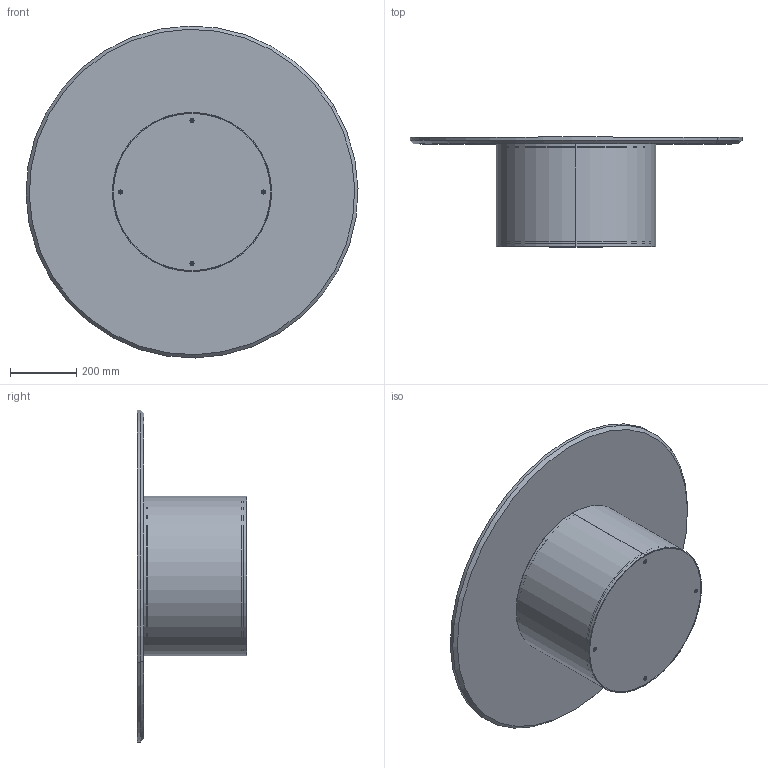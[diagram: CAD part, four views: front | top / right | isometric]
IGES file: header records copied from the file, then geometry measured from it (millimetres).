
Start section: SolidWorks IGES file using analytic representation for surfaces
Global section: file name: Y:\eforma\TECNICO\SOLIDWORKS\E-FORMA\2-TAVOLINI\CILINDRO LOW\02 parts\CL03M.IGS; native system: SolidWorks 2022; preprocessor: SolidWorks 2022; author: eforma.tech; date: 240806.121339; units: millimetre
Bounding box: 999.75 x 330 x 999.75 mm (x, y, z)
Volume: 19068107 mm3; surface area: 3310289.3 mm2
Topology: 16 solids, 16 shells, 381 faces, 831 edges, 470 vertices
Faces by surface type: revolution 213, plane 166, bspline 2
